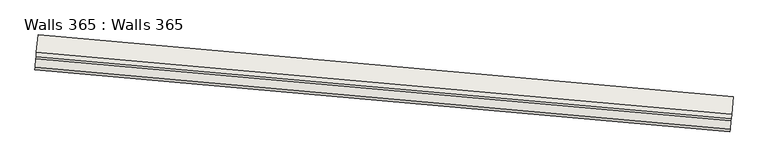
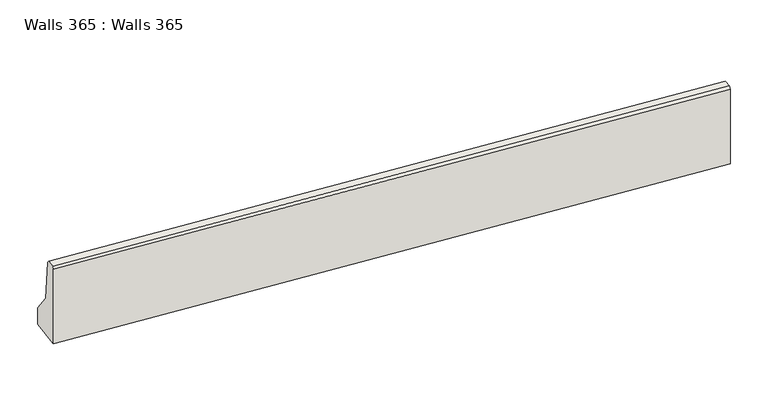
"""IFC4 building model written with IfcOpenShell, lengths in millimetres: wall geometry, Walls 365 : Walls 365."""

from ifc_helpers import new_model, si_unit, frame, origin, place, context, project, spatial, polyline, outline, extrude, source, transform, mapped, element, save


def walls_365_walls_365_0fd2bbe5(model_context):
    return source(origin(), model_context, "Body", "SweptSolid", [
        extrude(outline(polyline([(636680.0, 400.0), (636930.0, 200.0), (637435.0, 150.0000001), (637460.0, 125.0), (637460.0, 25.0), (637435.0, 0.0), (636460.0, 0.0), (636460.0, 400.0), (636680.0, 400.0)])), frame((-690606.0105398, -417555.2608226, 0.0), z_axis=(-0.9960550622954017, 0.08873732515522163, 0.0), x_axis=(0.0, 0.0, 1.0)), (0.0, 0.0, 1.0), 8000.0000001),
    ])


if __name__ == "__main__":
    model = new_model("IFC4")
    model_context = context("Model", 3, world=origin())
    ifc_project = project(units=[si_unit("LENGTHUNIT", "METRE", prefix="MILLI")], contexts=[model_context])
    site = spatial("IfcSite", under=ifc_project)
    building = spatial("IfcBuilding", under=site)
    placement = place(None, origin())
    walls_365_walls_365_shape = walls_365_walls_365_0fd2bbe5(model_context)
    element("IfcWall", 1, ObjectType="Walls 365 : Walls 365", at=placement, inside=building, context=model_context, shape_type="MappedRepresentation", body=[
        mapped(walls_365_walls_365_shape, transform((0.0, 0.0, 0.0), x_axis=(1.0, 0.0, 0.0), y_axis=(0.0, 1.0, 0.0), z_axis=(0.0, 0.0, 1.0))),
    ])
    save(model, "model.ifc")
